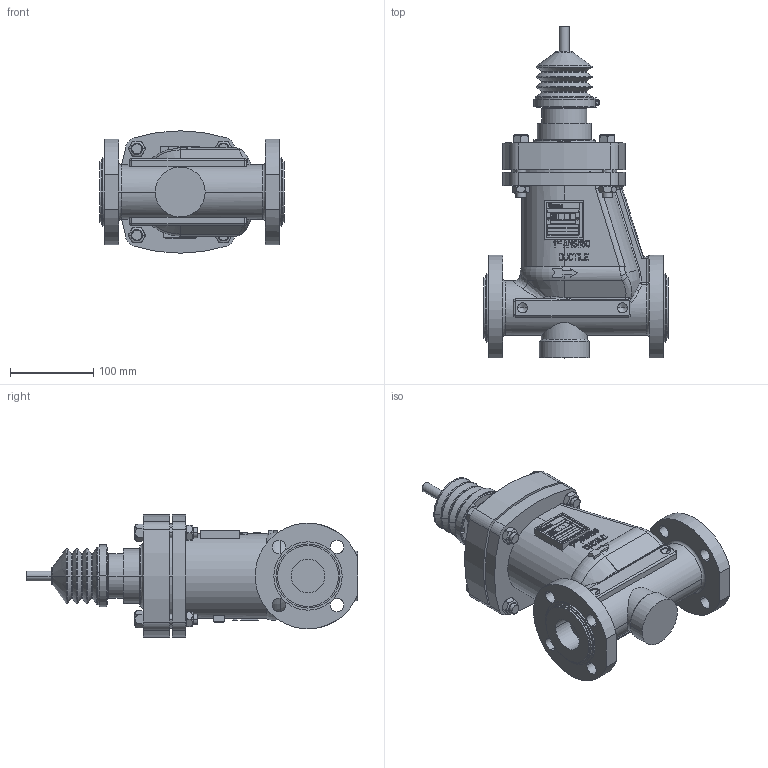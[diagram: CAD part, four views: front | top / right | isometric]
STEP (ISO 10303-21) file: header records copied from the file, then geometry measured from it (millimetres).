
FILE_DESCRIPTION((''),'2;1');
FILE_NAME('9560-00-5021_A_ASM','2014-04-03T',('SParmar1'),(''),'PRO/ENGINEER BY PARAMETRIC TECHNOLOGY CORPORATION, 2011040','PRO/ENGINEER BY PARAMETRIC TECHNOLOGY CORPORATION, 2011040','');
FILE_SCHEMA(('CONFIG_CONTROL_DESIGN'));
Products named in the file (6): 9567-13-2041; 9568-27-5105; 4188_11_1060; M12_X_65; M12_X_HEX_NUT; 9560-00-5021_A_ASM
Assembly tree (11 placements, depth 2):
  9560-00-5021_A_ASM
    9567-13-2041
    9568-27-5105
    4188_11_1060
    M12_X_65  x4
    M12_X_HEX_NUT  x4
Bounding box: 222 x 398.5 x 147 mm (x, y, z)
Volume: 3619499.8 mm3; surface area: 354209.9 mm2
Topology: 13 solids, 13 shells, 2797 faces, 7690 edges, 5053 vertices
Faces by surface type: plane 2398, cylinder 213, bspline 59, torus 54, cone 50, extrusion 17, sphere 6
Entity records: 88041 total; most frequent: CARTESIAN_POINT 18617, ORIENTED_EDGE 15004, DIRECTION 13175, EDGE_CURVE 7502, VECTOR 6685, LINE 6668, VERTEX_POINT 4939, AXIS2_PLACEMENT_3D 3245
